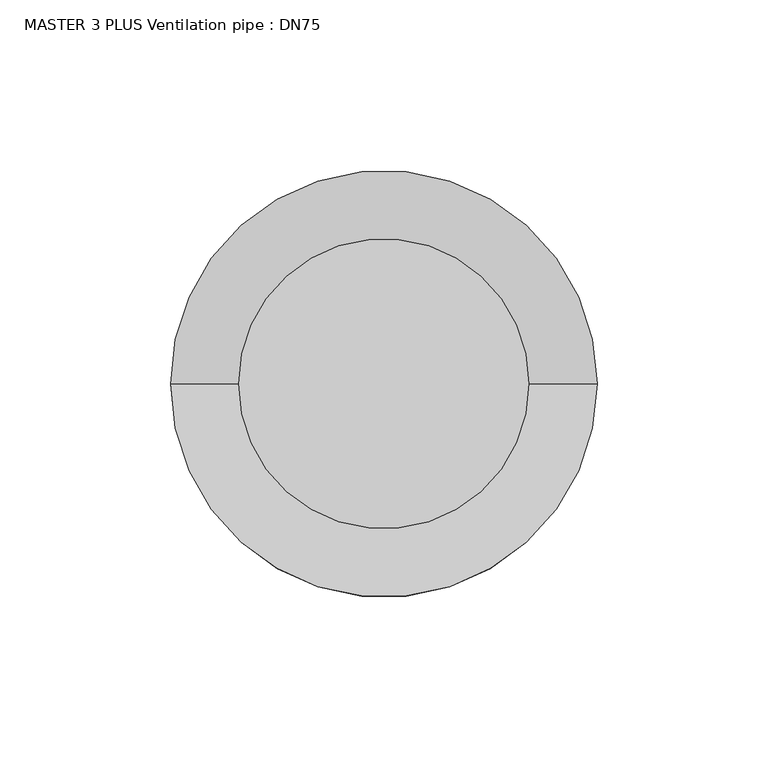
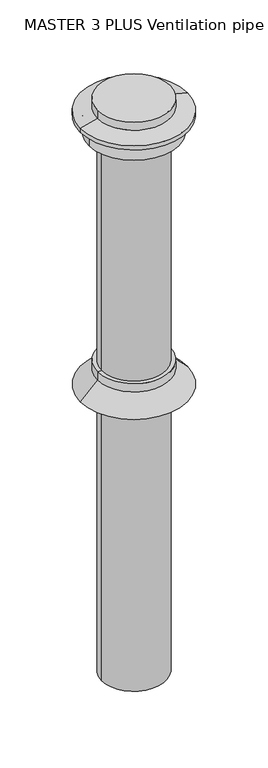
"""IFC4 building model written with IfcOpenShell, lengths in millimetres: valve geometry, MASTER 3 PLUS Ventilation pipe : DN75."""

from ifc_helpers import new_model, si_unit, frame, origin, origin_with_axes, place, context, project, spatial, polyline, circle_curve, source, transform, mapped, element, save
from ifc_brep_helpers import plane_surface, cylinder_surface, revolved_surface, advanced_brep


def master_3_plus_ventilation_pipe_dn75_4edf4f30(model_context):
    return source(origin(), model_context, "Body", "AdvancedBrep", [
        advanced_brep(
        [(42.5, 0.0, 705.0), (-42.5, 0.0, 705.0), (-37.5, 0.0, 0.0), (37.5, 0.0, 0.0), (37.5, 0.0, 664.8236191), (-37.5, 0.0, 664.8236191), (42.5, 0.0, 695.0), (-42.5, 0.0, 695.0), (62.5, 0.0, 689.8236191), (-62.5, 0.0, 689.8236191), (62.5, 0.0, 684.8236191), (-62.5, 0.0, 684.8236191), (52.5, 0.0, 684.8236191), (-52.5, 0.0, 684.8236191), (52.5, 0.0, 664.8236191), (-52.5, 0.0, 664.8236191)],
        [
            (0, 1, circle_curve(frame((0.0, 0.0, 705.0), z_axis=(0.0, 0.0, 1.0), x_axis=(-1.0, 0.0, 0.0)), 42.5)),
            (1, 0, circle_curve(frame((0.0, 0.0, 705.0), z_axis=(0.0, 0.0, 1.0), x_axis=(-1.0, 0.0, 0.0)), 42.5)),
            (2, 3, circle_curve(frame((0.0, 0.0, 0.0), z_axis=(0.0, 0.0, -1.0), x_axis=(1.0, 0.0, 0.0)), 37.5)),
            (3, 2, circle_curve(frame((0.0, 0.0, 0.0), z_axis=(0.0, 0.0, -1.0), x_axis=(1.0, 0.0, 0.0)), 37.5)),
            (3, 4),
            (4, 5, circle_curve(frame((0.0, 0.0, 664.8236191), z_axis=(0.0, 0.0, -1.0), x_axis=(1.0, 0.0, 0.0)), 37.5)),
            (5, 2),
            (5, 4, circle_curve(frame((0.0, 0.0, 664.8236191), z_axis=(0.0, 0.0, -1.0), x_axis=(1.0, 0.0, 0.0)), 37.5)),
            (6, 7, circle_curve(frame((0.0, 0.0, 695.0), z_axis=(0.0, 0.0, 1.0), x_axis=(-1.0, 0.0, 0.0)), 42.5)),
            (7, 1),
            (0, 6),
            (7, 6, circle_curve(frame((0.0, 0.0, 695.0), z_axis=(0.0, 0.0, 1.0), x_axis=(-1.0, 0.0, 0.0)), 42.5)),
            (6, 8),
            (8, 9, circle_curve(frame((0.0, 0.0, 689.8236191), z_axis=(0.0, 0.0, 1.0), x_axis=(-1.0, 0.0, 0.0)), 62.5)),
            (9, 7),
            (9, 8, circle_curve(frame((0.0, 0.0, 689.8236191), z_axis=(0.0, 0.0, 1.0), x_axis=(-1.0, 0.0, 0.0)), 62.5)),
            (8, 10),
            (10, 11, circle_curve(frame((0.0, 0.0, 684.8236191), z_axis=(0.0, 0.0, 1.0), x_axis=(-1.0, 0.0, 0.0)), 62.5)),
            (11, 9),
            (11, 10, circle_curve(frame((0.0, 0.0, 684.8236191), z_axis=(0.0, 0.0, 1.0), x_axis=(-1.0, 0.0, 0.0)), 62.5)),
            (10, 12),
            (12, 13, circle_curve(frame((0.0, 0.0, 684.8236191), z_axis=(0.0, 0.0, 1.0), x_axis=(-1.0, 0.0, 0.0)), 52.5)),
            (13, 11),
            (13, 12, circle_curve(frame((0.0, 0.0, 684.8236191), z_axis=(0.0, 0.0, 1.0), x_axis=(-1.0, 0.0, 0.0)), 52.5)),
            (12, 14),
            (14, 15, circle_curve(frame((0.0, 0.0, 664.8236191), z_axis=(0.0, 0.0, 1.0), x_axis=(-1.0, 0.0, 0.0)), 52.5)),
            (15, 13),
            (15, 14, circle_curve(frame((0.0, 0.0, 664.8236191), z_axis=(0.0, 0.0, 1.0), x_axis=(-1.0, 0.0, 0.0)), 52.5)),
            (14, 4),
            (5, 15),
        ],
        [
            plane_surface(frame((37.5, 0.0, 705.0), z_axis=(0.0, 0.0, 1.0), x_axis=(0.0, 1.0, 0.0))),
            plane_surface(frame((37.5, 0.0, 0.0), z_axis=(0.0, 0.0, -1.0), x_axis=(0.0, -1.0, 0.0))),
            cylinder_surface(origin_with_axes(), 37.5),
            cylinder_surface(frame((0.0, 0.0, 705.0), z_axis=(0.0, 0.0, -1.0), x_axis=(-1.0, 0.0, 0.0)), 42.5),
            revolved_surface(polyline([(-42.5, 0.0, 695.0), (-62.5, 0.0, 689.8236191)]), (0.0, 0.0, 705.0), (0.0, 0.0, -1.0)),
            cylinder_surface(frame((0.0, 0.0, 705.0), z_axis=(0.0, 0.0, -1.0), x_axis=(-1.0, 0.0, 0.0)), 62.5),
            plane_surface(frame((0.0, 0.0, 684.8236191), z_axis=(0.0, 0.0, -1.0), x_axis=(-1.0, 0.0, 0.0))),
            cylinder_surface(frame((0.0, 0.0, 705.0), z_axis=(0.0, 0.0, -1.0), x_axis=(-1.0, 0.0, 0.0)), 52.5),
            plane_surface(frame((0.0, 0.0, 664.8236191), z_axis=(0.0, 0.0, -1.0), x_axis=(-1.0, 0.0, 0.0))),
        ],
        [
            (0, [[1, 2]]),
            (1, [[3, 4]]),
            (2, [[-4, 5, 6, 7]]),
            (2, [[-3, -7, 8, -5]]),
            (3, [[9, 10, -1, 11]]),
            (3, [[-10, 12, -11, -2]]),
            (4, [[-9, 13, 14, 15]]),
            (4, [[-12, -15, 16, -13]]),
            (5, [[-14, 17, 18, 19]]),
            (5, [[-16, -19, 20, -17]]),
            (6, [[-18, 21, 22, 23]]),
            (6, [[-20, -23, 24, -21]]),
            (7, [[-22, 25, 26, 27]]),
            (7, [[-24, -27, 28, -25]]),
            (8, [[-26, 29, -8, 30]]),
            (8, [[-28, -30, -6, -29]]),
        ],
    ),
        advanced_brep(
        [(42.5, 0.0, 372.5), (-42.5, 0.0, 372.5), (-42.5, 0.0, 382.5), (42.5, 0.0, 382.5), (62.5, 0.0, 352.5), (-62.5, 0.0, 352.5), (0.0, 0.0, 352.5), (0.0, 0.0, 382.5)],
        [
            (0, 1, circle_curve(frame((0.0, 0.0, 372.5), z_axis=(0.0, 0.0, 1.0), x_axis=(-1.0, 0.0, 0.0)), 42.5)),
            (1, 2),
            (2, 3, circle_curve(frame((0.0, 0.0, 382.5), z_axis=(0.0, 0.0, -1.0), x_axis=(-1.0, 0.0, 0.0)), 42.5)),
            (3, 0),
            (1, 0, circle_curve(frame((0.0, 0.0, 372.5), z_axis=(0.0, 0.0, 1.0), x_axis=(-1.0, 0.0, 0.0)), 42.5)),
            (3, 2, circle_curve(frame((0.0, 0.0, 382.5), z_axis=(0.0, 0.0, -1.0), x_axis=(-1.0, 0.0, 0.0)), 42.5)),
            (4, 5, circle_curve(frame((0.0, 0.0, 352.5), z_axis=(0.0, 0.0, 1.0), x_axis=(-1.0, 0.0, 0.0)), 62.5)),
            (5, 1),
            (0, 4),
            (5, 4, circle_curve(frame((0.0, 0.0, 352.5), z_axis=(0.0, 0.0, 1.0), x_axis=(-1.0, 0.0, 0.0)), 62.5)),
            (6, 5),
            (4, 6),
            (2, 7),
            (7, 3),
        ],
        [
            cylinder_surface(frame((0.0, 0.0, 382.5), z_axis=(0.0, 0.0, -1.0), x_axis=(-1.0, 0.0, 0.0)), 42.5),
            revolved_surface(polyline([(-42.5, 0.0, 372.5), (-62.5, 0.0, 352.5)]), (0.0, 0.0, 382.5), (0.0, 0.0, -1.0)),
            plane_surface(frame((0.0, 0.0, 352.5), z_axis=(0.0, 0.0, -1.0), x_axis=(-1.0, 0.0, 0.0))),
            plane_surface(frame((0.0, 0.0, 382.5), z_axis=(0.0, 0.0, 1.0), x_axis=(-1.0, 0.0, 0.0))),
        ],
        [
            (0, [[1, 2, 3, 4]]),
            (0, [[5, -4, 6, -2]]),
            (1, [[7, 8, -1, 9]]),
            (1, [[10, -9, -5, -8]]),
            (2, [[11, -7, 12]]),
            (2, [[-12, -10, -11]]),
            (3, [[-3, 13, 14]]),
            (3, [[-6, -14, -13]]),
        ],
    ),
    ])


if __name__ == "__main__":
    model = new_model("IFC4")
    model_context = context("Model", 3, world=origin())
    ifc_project = project(units=[si_unit("LENGTHUNIT", "METRE", prefix="MILLI")], contexts=[model_context])
    site = spatial("IfcSite", under=ifc_project)
    building = spatial("IfcBuilding", under=site)
    placement = place(None, origin())
    master_3_plus_ventilation_pipe_dn75_shape = master_3_plus_ventilation_pipe_dn75_4edf4f30(model_context)
    element("IfcValve", 1, ObjectType="MASTER 3 PLUS Ventilation pipe : DN75", at=placement, inside=building, context=model_context, shape_type="MappedRepresentation", body=[
        mapped(master_3_plus_ventilation_pipe_dn75_shape, transform((0.0, 0.0, 0.0), x_axis=(1.0, 0.0, 0.0), y_axis=(0.0, 1.0, 0.0), z_axis=(0.0, 0.0, 1.0))),
    ])
    save(model, "model.ifc")
